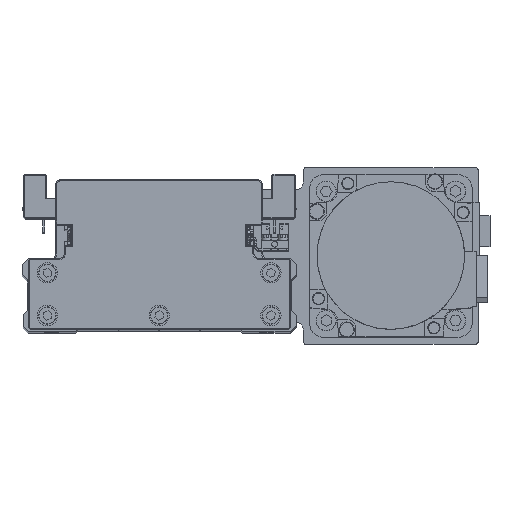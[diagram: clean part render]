
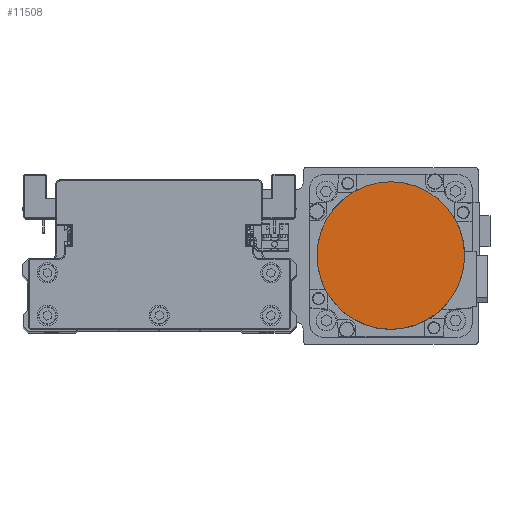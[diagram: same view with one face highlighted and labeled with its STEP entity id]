
A CAD part, top view. The second image highlights one B-rep face of the part: STEP entity #11508.
In plain terms, the highlighted planar face has unit normal (0, 0, 1) as drawn and (0, 0, -1) by its records, which use the part's own axes.
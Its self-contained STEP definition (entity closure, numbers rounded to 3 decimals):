
#2562 = FACE_OUTER_BOUND ( 'NONE', #7639, .T. ) ;
#3716 = ORIENTED_EDGE ( 'NONE', *, *, #10882, .F. ) ;
#3811 = CIRCLE ( 'NONE', #26080, 36.3 ) ;
#7079 = DIRECTION ( 'NONE',  ( 0., 1., 0. ) ) ;
#7364 = VERTEX_POINT ( 'NONE', #23468 ) ;
#7614 = CARTESIAN_POINT ( 'NONE',  ( 0., 0., -122.2 ) ) ;
#7639 = EDGE_LOOP ( 'NONE', ( #26099, #3716 ) ) ;
#10882 = EDGE_CURVE ( 'NONE', #7364, #38300, #3811, .T. ) ;
#11508 = ADVANCED_FACE ( 'NONE', ( #2562 ), #14706, .F. ) ;
#11730 = DIRECTION ( 'NONE',  ( 1., 0., 0. ) ) ;
#11975 = AXIS2_PLACEMENT_3D ( 'NONE', #22189, #34356, #7079 ) ;
#14706 = PLANE ( 'NONE',  #32623 ) ;
#19751 = DIRECTION ( 'NONE',  ( 0., 0., 1. ) ) ;
#22189 = CARTESIAN_POINT ( 'NONE',  ( 0., 0., -122.2 ) ) ;
#23468 = CARTESIAN_POINT ( 'NONE',  ( 0., -36.3, -122.2 ) ) ;
#26080 = AXIS2_PLACEMENT_3D ( 'NONE', #7614, #19751, #31907 ) ;
#26099 = ORIENTED_EDGE ( 'NONE', *, *, #33093, .F. ) ;
#26857 = CARTESIAN_POINT ( 'NONE',  ( 0., 0., -122.2 ) ) ;
#29172 = CIRCLE ( 'NONE', #11975, 36.3 ) ;
#30760 = CARTESIAN_POINT ( 'NONE',  ( 0., 36.3, -122.2 ) ) ;
#31907 = DIRECTION ( 'NONE',  ( 0., -1., 0. ) ) ;
#32623 = AXIS2_PLACEMENT_3D ( 'NONE', #26857, #39036, #11730 ) ;
#33093 = EDGE_CURVE ( 'NONE', #38300, #7364, #29172, .T. ) ;
#34356 = DIRECTION ( 'NONE',  ( 0., 0., 1. ) ) ;
#38300 = VERTEX_POINT ( 'NONE', #30760 ) ;
#39036 = DIRECTION ( 'NONE',  ( 0., 0., 1. ) ) ;
